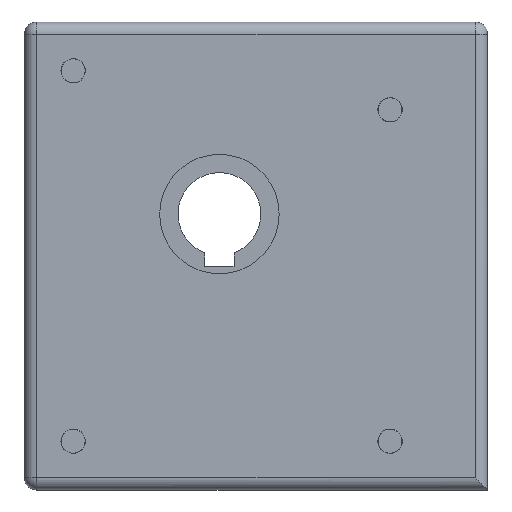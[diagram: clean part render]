
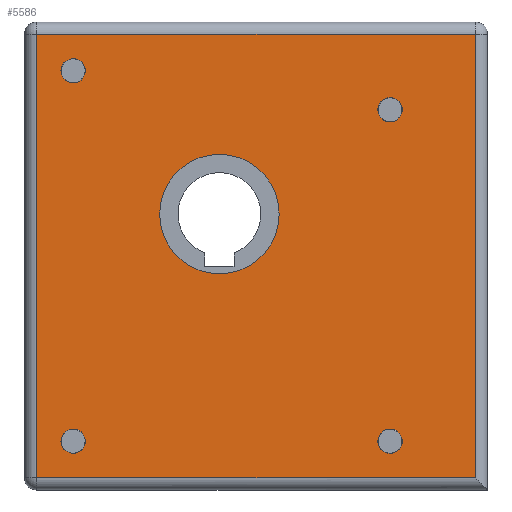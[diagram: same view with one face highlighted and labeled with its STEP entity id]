
A CAD part, left-side view. The second image highlights one B-rep face of the part: STEP entity #5586.
In plain terms, the highlighted planar face has unit normal (-1, 0, 0).
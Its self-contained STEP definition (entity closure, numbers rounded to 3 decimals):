
#61 = DIRECTION ( 'NONE',  ( 1., 0., 0. ) ) ;
#76 = DIRECTION ( 'NONE',  ( 1., 0., 0. ) ) ;
#549 = CARTESIAN_POINT ( 'NONE',  ( -22.33, 1133.8, 63.33 ) ) ;
#686 = DIRECTION ( 'NONE',  ( 0., 0., -1. ) ) ;
#1104 = ORIENTED_EDGE ( 'NONE', *, *, #19368, .T. ) ;
#1165 = VERTEX_POINT ( 'NONE', #9101 ) ;
#1176 = VERTEX_POINT ( 'NONE', #23822 ) ;
#1230 = AXIS2_PLACEMENT_3D ( 'NONE', #4648, #21056, #686 ) ;
#1378 = FACE_BOUND ( 'NONE', #23553, .T. ) ;
#1997 = CARTESIAN_POINT ( 'NONE',  ( -22.33, 1153.8, 70.83 ) ) ;
#2395 = CIRCLE ( 'NONE', #16441, 2.5 ) ;
#2877 = FACE_BOUND ( 'NONE', #20911, .T. ) ;
#2887 = VERTEX_POINT ( 'NONE', #9345 ) ;
#2890 = DIRECTION ( 'NONE',  ( 0., 0., -1. ) ) ;
#2928 = ORIENTED_EDGE ( 'NONE', *, *, #15964, .T. ) ;
#3231 = CARTESIAN_POINT ( 'NONE',  ( -22.33, 1153.8, 136.33 ) ) ;
#3281 = VERTEX_POINT ( 'NONE', #18452 ) ;
#3441 = CARTESIAN_POINT ( 'NONE',  ( -22.33, 1226.3, 60.83 ) ) ;
#4010 = CARTESIAN_POINT ( 'NONE',  ( -22.33, 1153.8, 138.83 ) ) ;
#4247 = DIRECTION ( 'NONE',  ( 0., -1., 0. ) ) ;
#4648 = CARTESIAN_POINT ( 'NONE',  ( -22.33, 1153.8, 138.83 ) ) ;
#4767 = CARTESIAN_POINT ( 'NONE',  ( -22.33, 1226.3, 154.33 ) ) ;
#4979 = DIRECTION ( 'NONE',  ( 0., 0., -1. ) ) ;
#5311 = VERTEX_POINT ( 'NONE', #9400 ) ;
#5586 = ADVANCED_FACE ( 'NONE', ( #15647, #24365, #15924, #23957, #1378, #2877 ), #7720, .F. ) ;
#5819 = EDGE_CURVE ( 'NONE', #17854, #16313, #17473, .T. ) ;
#5852 = EDGE_CURVE ( 'NONE', #6568, #1165, #19384, .T. ) ;
#6278 = ORIENTED_EDGE ( 'NONE', *, *, #19137, .T. ) ;
#6568 = VERTEX_POINT ( 'NONE', #11168 ) ;
#6807 = EDGE_LOOP ( 'NONE', ( #7156, #24925, #18941, #25825 ) ) ;
#6819 = VECTOR ( 'NONE', #19257, 1000. ) ;
#7156 = ORIENTED_EDGE ( 'NONE', *, *, #16306, .T. ) ;
#7251 = AXIS2_PLACEMENT_3D ( 'NONE', #8883, #15167, #7363 ) ;
#7363 = DIRECTION ( 'NONE',  ( 0., 0., -1. ) ) ;
#7720 = PLANE ( 'NONE',  #14814 ) ;
#7765 = AXIS2_PLACEMENT_3D ( 'NONE', #25602, #10871, #21199 ) ;
#7993 = CIRCLE ( 'NONE', #25539, 2.5 ) ;
#8053 = CARTESIAN_POINT ( 'NONE',  ( -22.33, 1153.8, 141.33 ) ) ;
#8063 = ORIENTED_EDGE ( 'NONE', *, *, #23510, .T. ) ;
#8404 = EDGE_CURVE ( 'NONE', #16313, #17854, #22629, .T. ) ;
#8808 = EDGE_LOOP ( 'NONE', ( #8063, #1104 ) ) ;
#8838 = CARTESIAN_POINT ( 'NONE',  ( -22.33, 1153.8, 70.83 ) ) ;
#8864 = VECTOR ( 'NONE', #4979, 1000. ) ;
#8881 = EDGE_CURVE ( 'NONE', #1165, #9838, #24464, .T. ) ;
#8883 = CARTESIAN_POINT ( 'NONE',  ( -22.33, 1188.8, 117.43 ) ) ;
#8907 = CIRCLE ( 'NONE', #24292, 2.5 ) ;
#8979 = DIRECTION ( 'NONE',  ( 1., 0., 0. ) ) ;
#9101 = CARTESIAN_POINT ( 'NONE',  ( -22.33, 1136.3, 63.33 ) ) ;
#9135 = EDGE_LOOP ( 'NONE', ( #6278, #9641 ) ) ;
#9141 = CIRCLE ( 'NONE', #20101, 2.5 ) ;
#9161 = EDGE_LOOP ( 'NONE', ( #2928, #26636 ) ) ;
#9169 = CIRCLE ( 'NONE', #12672, 12.25 ) ;
#9173 = DIRECTION ( 'NONE',  ( 0., 0., -1. ) ) ;
#9345 = CARTESIAN_POINT ( 'NONE',  ( -22.33, 1218.8, 73.33 ) ) ;
#9400 = CARTESIAN_POINT ( 'NONE',  ( -22.33, 1188.8, 105.18 ) ) ;
#9435 = DIRECTION ( 'NONE',  ( 1., 0., 0. ) ) ;
#9641 = ORIENTED_EDGE ( 'NONE', *, *, #12762, .T. ) ;
#9838 = VERTEX_POINT ( 'NONE', #22029 ) ;
#10082 = DIRECTION ( 'NONE',  ( 0., 0., -1. ) ) ;
#10871 = DIRECTION ( 'NONE',  ( 1., 0., 0. ) ) ;
#11168 = CARTESIAN_POINT ( 'NONE',  ( -22.33, 1226.3, 63.33 ) ) ;
#11326 = VERTEX_POINT ( 'NONE', #11560 ) ;
#11329 = VERTEX_POINT ( 'NONE', #24099 ) ;
#11495 = CARTESIAN_POINT ( 'NONE',  ( -22.33, 1218.8, 146.83 ) ) ;
#11560 = CARTESIAN_POINT ( 'NONE',  ( -22.33, 1153.8, 73.33 ) ) ;
#11647 = CARTESIAN_POINT ( 'NONE',  ( -22.33, 1218.8, 144.33 ) ) ;
#12183 = CARTESIAN_POINT ( 'NONE',  ( -22.33, 1228.8, 154.33 ) ) ;
#12384 = CIRCLE ( 'NONE', #21539, 2.5 ) ;
#12452 = LINE ( 'NONE', #12183, #6819 ) ;
#12672 = AXIS2_PLACEMENT_3D ( 'NONE', #24319, #20452, #22390 ) ;
#12762 = EDGE_CURVE ( 'NONE', #2887, #11329, #18716, .T. ) ;
#14626 = DIRECTION ( 'NONE',  ( 0., 0., -1. ) ) ;
#14701 = EDGE_CURVE ( 'NONE', #11326, #3281, #9141, .T. ) ;
#14814 = AXIS2_PLACEMENT_3D ( 'NONE', #26567, #19813, #17997 ) ;
#15167 = DIRECTION ( 'NONE',  ( 1., 0., 0. ) ) ;
#15544 = LINE ( 'NONE', #3441, #8864 ) ;
#15647 = FACE_OUTER_BOUND ( 'NONE', #6807, .T. ) ;
#15819 = VERTEX_POINT ( 'NONE', #11647 ) ;
#15924 = FACE_BOUND ( 'NONE', #9161, .T. ) ;
#15964 = EDGE_CURVE ( 'NONE', #3281, #11326, #2395, .T. ) ;
#15993 = ORIENTED_EDGE ( 'NONE', *, *, #8404, .T. ) ;
#16160 = EDGE_CURVE ( 'NONE', #1176, #5311, #26605, .T. ) ;
#16306 = EDGE_CURVE ( 'NONE', #9838, #17023, #12452, .T. ) ;
#16313 = VERTEX_POINT ( 'NONE', #8053 ) ;
#16441 = AXIS2_PLACEMENT_3D ( 'NONE', #1997, #76, #25813 ) ;
#16491 = DIRECTION ( 'NONE',  ( 1., 0., 0. ) ) ;
#16737 = DIRECTION ( 'NONE',  ( 0., 0., -1. ) ) ;
#17023 = VERTEX_POINT ( 'NONE', #4767 ) ;
#17052 = CARTESIAN_POINT ( 'NONE',  ( -22.33, 1218.8, 149.33 ) ) ;
#17473 = CIRCLE ( 'NONE', #1230, 2.5 ) ;
#17854 = VERTEX_POINT ( 'NONE', #3231 ) ;
#17997 = DIRECTION ( 'NONE',  ( 0., 0., -1. ) ) ;
#18209 = AXIS2_PLACEMENT_3D ( 'NONE', #4010, #16491, #10082 ) ;
#18452 = CARTESIAN_POINT ( 'NONE',  ( -22.33, 1153.8, 68.33 ) ) ;
#18716 = CIRCLE ( 'NONE', #7765, 2.5 ) ;
#18941 = ORIENTED_EDGE ( 'NONE', *, *, #5852, .T. ) ;
#18972 = DIRECTION ( 'NONE',  ( 1., 0., 0. ) ) ;
#19137 = EDGE_CURVE ( 'NONE', #11329, #2887, #7993, .T. ) ;
#19257 = DIRECTION ( 'NONE',  ( 0., 1., 0. ) ) ;
#19368 = EDGE_CURVE ( 'NONE', #26400, #15819, #12384, .T. ) ;
#19384 = LINE ( 'NONE', #549, #24571 ) ;
#19813 = DIRECTION ( 'NONE',  ( 1., 0., 0. ) ) ;
#20101 = AXIS2_PLACEMENT_3D ( 'NONE', #8838, #8979, #2890 ) ;
#20452 = DIRECTION ( 'NONE',  ( 1., 0., 0. ) ) ;
#20911 = EDGE_LOOP ( 'NONE', ( #22613, #23574 ) ) ;
#21056 = DIRECTION ( 'NONE',  ( 1., 0., 0. ) ) ;
#21175 = EDGE_CURVE ( 'NONE', #5311, #1176, #9169, .T. ) ;
#21199 = DIRECTION ( 'NONE',  ( 0., 0., -1. ) ) ;
#21539 = AXIS2_PLACEMENT_3D ( 'NONE', #27239, #18972, #16737 ) ;
#22029 = CARTESIAN_POINT ( 'NONE',  ( -22.33, 1136.3, 154.33 ) ) ;
#22390 = DIRECTION ( 'NONE',  ( 0., 0., -1. ) ) ;
#22613 = ORIENTED_EDGE ( 'NONE', *, *, #16160, .T. ) ;
#22629 = CIRCLE ( 'NONE', #18209, 2.5 ) ;
#22802 = DIRECTION ( 'NONE',  ( 0., 0., 1. ) ) ;
#23510 = EDGE_CURVE ( 'NONE', #15819, #26400, #8907, .T. ) ;
#23553 = EDGE_LOOP ( 'NONE', ( #25759, #15993 ) ) ;
#23574 = ORIENTED_EDGE ( 'NONE', *, *, #21175, .T. ) ;
#23665 = EDGE_CURVE ( 'NONE', #17023, #6568, #15544, .T. ) ;
#23822 = CARTESIAN_POINT ( 'NONE',  ( -22.33, 1188.8, 129.68 ) ) ;
#23863 = VECTOR ( 'NONE', #22802, 1000. ) ;
#23957 = FACE_BOUND ( 'NONE', #9135, .T. ) ;
#24099 = CARTESIAN_POINT ( 'NONE',  ( -22.33, 1218.8, 68.33 ) ) ;
#24292 = AXIS2_PLACEMENT_3D ( 'NONE', #11495, #9435, #9173 ) ;
#24319 = CARTESIAN_POINT ( 'NONE',  ( -22.33, 1188.8, 117.43 ) ) ;
#24365 = FACE_BOUND ( 'NONE', #8808, .T. ) ;
#24464 = LINE ( 'NONE', #27066, #23863 ) ;
#24571 = VECTOR ( 'NONE', #4247, 1000. ) ;
#24925 = ORIENTED_EDGE ( 'NONE', *, *, #23665, .T. ) ;
#25263 = CARTESIAN_POINT ( 'NONE',  ( -22.33, 1218.8, 70.83 ) ) ;
#25539 = AXIS2_PLACEMENT_3D ( 'NONE', #25263, #61, #14626 ) ;
#25602 = CARTESIAN_POINT ( 'NONE',  ( -22.33, 1218.8, 70.83 ) ) ;
#25759 = ORIENTED_EDGE ( 'NONE', *, *, #5819, .T. ) ;
#25813 = DIRECTION ( 'NONE',  ( 0., 0., -1. ) ) ;
#25825 = ORIENTED_EDGE ( 'NONE', *, *, #8881, .T. ) ;
#26400 = VERTEX_POINT ( 'NONE', #17052 ) ;
#26567 = CARTESIAN_POINT ( 'NONE',  ( -22.33, 0., 0. ) ) ;
#26605 = CIRCLE ( 'NONE', #7251, 12.25 ) ;
#26636 = ORIENTED_EDGE ( 'NONE', *, *, #14701, .T. ) ;
#27066 = CARTESIAN_POINT ( 'NONE',  ( -22.33, 1136.3, 0. ) ) ;
#27239 = CARTESIAN_POINT ( 'NONE',  ( -22.33, 1218.8, 146.83 ) ) ;
